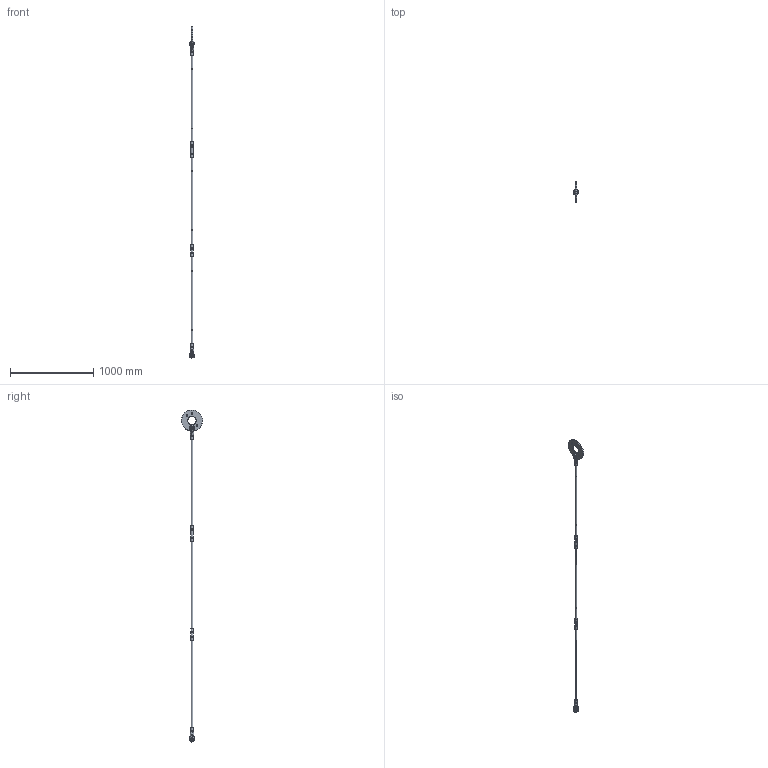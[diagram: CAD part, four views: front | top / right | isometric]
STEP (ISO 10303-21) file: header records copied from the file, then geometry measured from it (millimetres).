
FILE_DESCRIPTION(/* description */ (''),/* implementation_level */ '2;1');
FILE_NAME(/* name */ 'C:\Vault-WS\Anker\Werksnorm\Hochbau\ASDO-System\ASDO-S\System Komplett\Step\M 020.stp',/* time_stamp */ '2014-01-30T09:12:30+01:00',/* author */ ('ritgen'),/* organization */ (''),/* preprocessor_version */ 'ST-DEVELOPER v15.2',/* originating_system */ 'Autodesk Inventor 2014',/* authorisation */ '');
FILE_SCHEMA (('AUTOMOTIVE_DESIGN { 1 0 10303 214 3 1 1 }'));
Length unit declared in the file: millimetre
Products named in the file (10): ASDO-005753; ASDO-000255; DIN 471 - 20x1,2 - C67; ASDO-013927; ASDO-001610; ASDO-001319; ASDO-001445; ASDO-006305; ASDO-013968; ASDO-006306
Bounding box: 53 x 254.76 x 3991.27 mm (x, y, z)
Volume: 2130062.3 mm3; surface area: 470151.7 mm2
Topology: 18 solids, 18 shells, 437 faces, 946 edges, 585 vertices
Faces by surface type: bspline 144, plane 142, cylinder 79, torus 42, cone 30
Full cylindrical faces by diameter (mm): 2 x4, 4 x18, 17.294 x10, 18.7 x2, 20 x7, 21 x8, 23 x6, 27 x2, 28.5 x6, 30 x2, 100 x1, 255 x1
Entity records: 13350 total; most frequent: CARTESIAN_POINT 9262, ORIENTED_EDGE 748, DIRECTION 738, EDGE_CURVE 374, AXIS2_PLACEMENT_3D 335, EDGE_LOOP 294, VERTEX_POINT 258, ADVANCED_FACE 200
